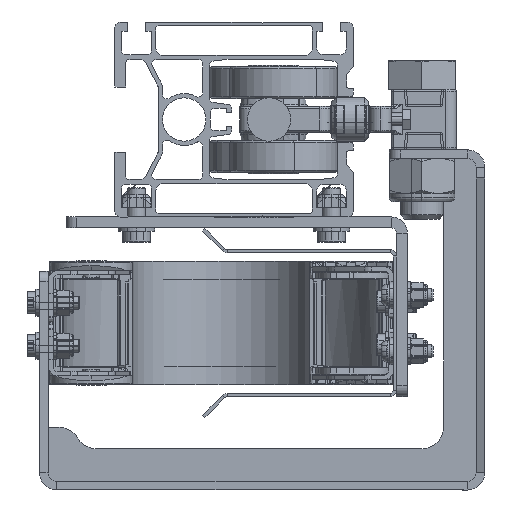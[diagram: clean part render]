
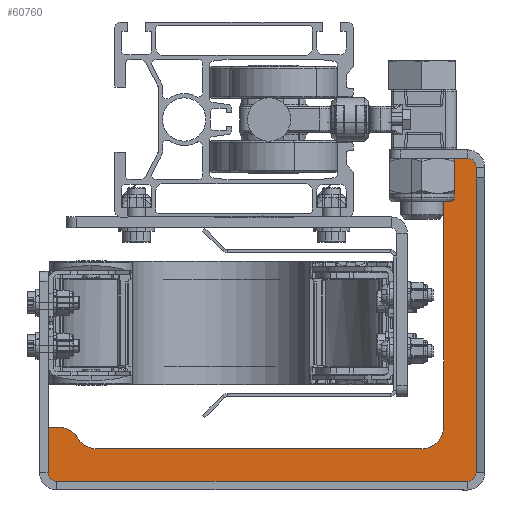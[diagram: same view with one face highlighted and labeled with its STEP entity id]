
A CAD part, left-side view. The second image highlights one B-rep face of the part: STEP entity #60760.
In plain terms, the highlighted planar face has unit normal (-1, 0, 0) as drawn and (0, 0, -1) by its records, which use the part's own axes.
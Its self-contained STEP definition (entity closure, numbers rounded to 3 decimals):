
#270 = VERTEX_POINT ( 'NONE', #23202 ) ;
#328 = VERTEX_POINT ( 'NONE', #54231 ) ;
#459 = CARTESIAN_POINT ( 'NONE',  ( 72.5, -20., -26.5 ) ) ;
#1231 = DIRECTION ( 'NONE',  ( 0., 1., 0. ) ) ;
#1272 = DIRECTION ( 'NONE',  ( -1., 0., 0. ) ) ;
#2921 = EDGE_CURVE ( 'NONE', #109944, #36331, #118254, .T. ) ;
#5592 = EDGE_CURVE ( 'NONE', #11331, #21074, #107150, .T. ) ;
#5900 = CARTESIAN_POINT ( 'NONE',  ( 51.5, 177.5, -26.5 ) ) ;
#6502 = ORIENTED_EDGE ( 'NONE', *, *, #63619, .T. ) ;
#8258 = LINE ( 'NONE', #24260, #45298 ) ;
#8938 = CIRCLE ( 'NONE', #29326, 10. ) ;
#9320 = ORIENTED_EDGE ( 'NONE', *, *, #28732, .T. ) ;
#10757 = CARTESIAN_POINT ( 'NONE',  ( 72.5, -16., -26.5 ) ) ;
#10883 = CARTESIAN_POINT ( 'NONE',  ( 51.5, 5., -26.5 ) ) ;
#11331 = VERTEX_POINT ( 'NONE', #34183 ) ;
#11842 = CARTESIAN_POINT ( 'NONE',  ( 51.5, 162.5, -26.5 ) ) ;
#12575 = EDGE_LOOP ( 'NONE', ( #47720, #116131, #89348, #22509, #26812, #6502, #96235, #70120, #49692, #108773, #48187, #15593, #9320 ) ) ;
#15593 = ORIENTED_EDGE ( 'NONE', *, *, #5592, .T. ) ;
#16199 = VECTOR ( 'NONE', #86998, 1000. ) ;
#17878 = CARTESIAN_POINT ( 'NONE',  ( 72.5, 177.5, -26.5 ) ) ;
#18657 = CARTESIAN_POINT ( 'NONE',  ( -72.5, -16., -26.5 ) ) ;
#19596 = EDGE_CURVE ( 'NONE', #36331, #11331, #31882, .T. ) ;
#20113 = EDGE_CURVE ( 'NONE', #20678, #270, #8258, .T. ) ;
#20220 = FACE_OUTER_BOUND ( 'NONE', #12575, .T. ) ;
#20294 = DIRECTION ( 'NONE',  ( 0., 0., -1. ) ) ;
#20678 = VERTEX_POINT ( 'NONE', #39235 ) ;
#20692 = DIRECTION ( 'NONE',  ( 0., 1., 0. ) ) ;
#21074 = VERTEX_POINT ( 'NONE', #77079 ) ;
#21125 = VERTEX_POINT ( 'NONE', #40593 ) ;
#22509 = ORIENTED_EDGE ( 'NONE', *, *, #61335, .T. ) ;
#23202 = CARTESIAN_POINT ( 'NONE',  ( 61.5, 155.179, -26.5 ) ) ;
#24260 = CARTESIAN_POINT ( 'NONE',  ( 61.5, -5., -26.5 ) ) ;
#25211 = CARTESIAN_POINT ( 'NONE',  ( 51.5, 155.179, -26.5 ) ) ;
#26812 = ORIENTED_EDGE ( 'NONE', *, *, #121265, .T. ) ;
#28682 = DIRECTION ( 'NONE',  ( 0., 0., 1. ) ) ;
#28732 = EDGE_CURVE ( 'NONE', #21074, #107296, #74834, .T. ) ;
#29326 = AXIS2_PLACEMENT_3D ( 'NONE', #10883, #28682, #94978 ) ;
#30208 = VECTOR ( 'NONE', #53262, 1000. ) ;
#31289 = VECTOR ( 'NONE', #81203, 1000. ) ;
#31882 = LINE ( 'NONE', #459, #37918 ) ;
#31929 = CARTESIAN_POINT ( 'NONE',  ( 61.5, 172.5, -26.5 ) ) ;
#33713 = DIRECTION ( 'NONE',  ( 0., 1., 0. ) ) ;
#34183 = CARTESIAN_POINT ( 'NONE',  ( -68.5, -20., -26.5 ) ) ;
#34653 = VECTOR ( 'NONE', #1231, 1000. ) ;
#34938 = DIRECTION ( 'NONE',  ( 0., 0., -1. ) ) ;
#36199 = CARTESIAN_POINT ( 'NONE',  ( 72.5, 173.5, -26.5 ) ) ;
#36331 = VERTEX_POINT ( 'NONE', #75179 ) ;
#36500 = AXIS2_PLACEMENT_3D ( 'NONE', #94544, #66388, #65586 ) ;
#37918 = VECTOR ( 'NONE', #1272, 1000. ) ;
#37924 = CIRCLE ( 'NONE', #105111, 10. ) ;
#39235 = CARTESIAN_POINT ( 'NONE',  ( 61.5, 5., -26.5 ) ) ;
#39717 = VERTEX_POINT ( 'NONE', #5900 ) ;
#39941 = DIRECTION ( 'NONE',  ( 0., 1., 0. ) ) ;
#40593 = CARTESIAN_POINT ( 'NONE',  ( 51.5, -5., -26.5 ) ) ;
#45298 = VECTOR ( 'NONE', #33713, 1000. ) ;
#47720 = ORIENTED_EDGE ( 'NONE', *, *, #50184, .T. ) ;
#48187 = ORIENTED_EDGE ( 'NONE', *, *, #19596, .T. ) ;
#49692 = ORIENTED_EDGE ( 'NONE', *, *, #67647, .T. ) ;
#49784 = AXIS2_PLACEMENT_3D ( 'NONE', #36199, #34938, #54056 ) ;
#50184 = EDGE_CURVE ( 'NONE', #107296, #21125, #65634, .T. ) ;
#51572 = AXIS2_PLACEMENT_3D ( 'NONE', #10757, #20294, #20692 ) ;
#51889 = CARTESIAN_POINT ( 'NONE',  ( 76.5, -16., -26.5 ) ) ;
#52197 = EDGE_CURVE ( 'NONE', #79097, #72535, #118649, .T. ) ;
#53262 = DIRECTION ( 'NONE',  ( 0., 1., 0. ) ) ;
#53268 = CARTESIAN_POINT ( 'NONE',  ( 72.5, 177.5, -26.5 ) ) ;
#53453 = EDGE_CURVE ( 'NONE', #39717, #79097, #71124, .T. ) ;
#54056 = DIRECTION ( 'NONE',  ( 0., 1., 0. ) ) ;
#54231 = CARTESIAN_POINT ( 'NONE',  ( 51.5, 172.5, -26.5 ) ) ;
#56660 = AXIS2_PLACEMENT_3D ( 'NONE', #77648, #96672, #39941 ) ;
#60760 = ADVANCED_FACE ( 'NONE', ( #20220 ), #76832, .T. ) ;
#61335 = EDGE_CURVE ( 'NONE', #270, #98868, #37924, .T. ) ;
#63619 = EDGE_CURVE ( 'NONE', #328, #39717, #110405, .T. ) ;
#64565 = DIRECTION ( 'NONE',  ( 0., 1., 0. ) ) ;
#65586 = DIRECTION ( 'NONE',  ( 0., 1., 0. ) ) ;
#65634 = LINE ( 'NONE', #116365, #95292 ) ;
#66388 = DIRECTION ( 'NONE',  ( 0., 0., -1. ) ) ;
#67647 = EDGE_CURVE ( 'NONE', #72535, #109944, #71473, .T. ) ;
#69793 = CARTESIAN_POINT ( 'NONE',  ( 56.5, 163.84, -26.5 ) ) ;
#70120 = ORIENTED_EDGE ( 'NONE', *, *, #52197, .T. ) ;
#71124 = LINE ( 'NONE', #17878, #16199 ) ;
#71473 = LINE ( 'NONE', #99810, #31289 ) ;
#72535 = VERTEX_POINT ( 'NONE', #101839 ) ;
#74834 = LINE ( 'NONE', #18657, #34653 ) ;
#75179 = CARTESIAN_POINT ( 'NONE',  ( 72.5, -20., -26.5 ) ) ;
#76832 = PLANE ( 'NONE',  #56660 ) ;
#77079 = CARTESIAN_POINT ( 'NONE',  ( -72.5, -16., -26.5 ) ) ;
#77648 = CARTESIAN_POINT ( 'NONE',  ( -68.5, -16., -26.5 ) ) ;
#79097 = VERTEX_POINT ( 'NONE', #53268 ) ;
#79594 = CARTESIAN_POINT ( 'NONE',  ( -72.5, -5., -26.5 ) ) ;
#80758 = AXIS2_PLACEMENT_3D ( 'NONE', #31929, #109066, #111119 ) ;
#81203 = DIRECTION ( 'NONE',  ( 0., -1., 0. ) ) ;
#86998 = DIRECTION ( 'NONE',  ( 1., 0., 0. ) ) ;
#89348 = ORIENTED_EDGE ( 'NONE', *, *, #20113, .T. ) ;
#89591 = EDGE_CURVE ( 'NONE', #21125, #20678, #8938, .T. ) ;
#91063 = CIRCLE ( 'NONE', #80758, 10. ) ;
#94544 = CARTESIAN_POINT ( 'NONE',  ( -68.5, -16., -26.5 ) ) ;
#94978 = DIRECTION ( 'NONE',  ( 0., 1., 0. ) ) ;
#95292 = VECTOR ( 'NONE', #114778, 1000. ) ;
#96235 = ORIENTED_EDGE ( 'NONE', *, *, #53453, .T. ) ;
#96672 = DIRECTION ( 'NONE',  ( 0., 0., -1. ) ) ;
#98868 = VERTEX_POINT ( 'NONE', #69793 ) ;
#99810 = CARTESIAN_POINT ( 'NONE',  ( 76.5, -16., -26.5 ) ) ;
#101839 = CARTESIAN_POINT ( 'NONE',  ( 76.5, 173.5, -26.5 ) ) ;
#105111 = AXIS2_PLACEMENT_3D ( 'NONE', #25211, #111810, #64565 ) ;
#107150 = CIRCLE ( 'NONE', #36500, 4. ) ;
#107296 = VERTEX_POINT ( 'NONE', #79594 ) ;
#108773 = ORIENTED_EDGE ( 'NONE', *, *, #2921, .T. ) ;
#109066 = DIRECTION ( 'NONE',  ( 0., 0., -1. ) ) ;
#109944 = VERTEX_POINT ( 'NONE', #51889 ) ;
#110405 = LINE ( 'NONE', #11842, #30208 ) ;
#111119 = DIRECTION ( 'NONE',  ( 0., 1., 0. ) ) ;
#111810 = DIRECTION ( 'NONE',  ( 0., 0., 1. ) ) ;
#114778 = DIRECTION ( 'NONE',  ( 1., 0., 0. ) ) ;
#116131 = ORIENTED_EDGE ( 'NONE', *, *, #89591, .T. ) ;
#116365 = CARTESIAN_POINT ( 'NONE',  ( 61.5, -5., -26.5 ) ) ;
#118254 = CIRCLE ( 'NONE', #51572, 4. ) ;
#118649 = CIRCLE ( 'NONE', #49784, 4. ) ;
#121265 = EDGE_CURVE ( 'NONE', #98868, #328, #91063, .T. ) ;
